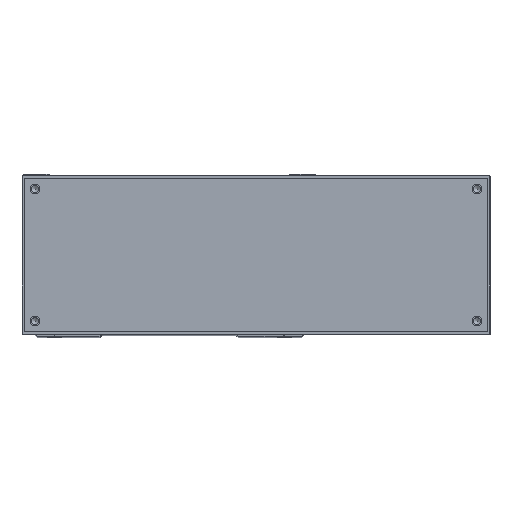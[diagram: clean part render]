
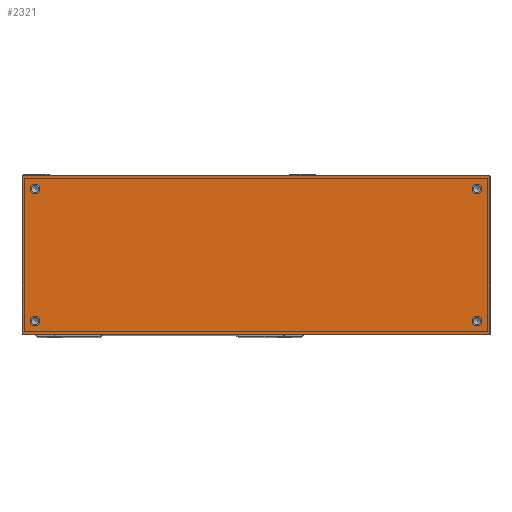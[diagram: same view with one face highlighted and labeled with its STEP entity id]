
A CAD part, top view. The second image highlights one B-rep face of the part: STEP entity #2321.
In plain terms, the highlighted planar face has unit normal (0, 0, 1).
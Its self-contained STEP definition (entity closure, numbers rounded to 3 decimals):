
#281=CIRCLE('',#14822,2.25);
#282=CIRCLE('',#14823,2.25);
#283=CIRCLE('',#14824,2.25);
#284=CIRCLE('',#14825,2.25);
#1418=FACE_BOUND('',#4123,.T.);
#1419=FACE_BOUND('',#4124,.T.);
#1420=FACE_BOUND('',#4125,.T.);
#1421=FACE_BOUND('',#4126,.T.);
#1422=FACE_BOUND('',#4127,.T.);
#2321=ADVANCED_FACE('8',(#1418,#1419,#1420,#1421,#1422),#3133,.F.);
#3133=PLANE('',#14826);
#4123=EDGE_LOOP('',(#5596));
#4124=EDGE_LOOP('',(#5597));
#4125=EDGE_LOOP('',(#5598));
#4126=EDGE_LOOP('',(#5599));
#4127=EDGE_LOOP('',(#5600,#5601,#5602,#5603));
#5596=ORIENTED_EDGE('',*,*,#10853,.F.);
#5597=ORIENTED_EDGE('',*,*,#10854,.F.);
#5598=ORIENTED_EDGE('',*,*,#10855,.F.);
#5599=ORIENTED_EDGE('',*,*,#10856,.F.);
#5600=ORIENTED_EDGE('',*,*,#10857,.F.);
#5601=ORIENTED_EDGE('',*,*,#10858,.F.);
#5602=ORIENTED_EDGE('',*,*,#10859,.F.);
#5603=ORIENTED_EDGE('',*,*,#10860,.F.);
#9382=VERTEX_POINT('',#21536);
#9383=VERTEX_POINT('',#21538);
#9384=VERTEX_POINT('',#21540);
#9385=VERTEX_POINT('',#21542);
#9386=VERTEX_POINT('',#21544);
#9387=VERTEX_POINT('',#21545);
#9388=VERTEX_POINT('',#21547);
#9389=VERTEX_POINT('',#21549);
#10853=EDGE_CURVE('',#9382,#9382,#281,.T.);
#10854=EDGE_CURVE('',#9383,#9383,#282,.T.);
#10855=EDGE_CURVE('',#9384,#9384,#283,.T.);
#10856=EDGE_CURVE('',#9385,#9385,#284,.T.);
#10857=EDGE_CURVE('',#9386,#9387,#12743,.T.);
#10858=EDGE_CURVE('',#9388,#9386,#12744,.T.);
#10859=EDGE_CURVE('',#9389,#9388,#12745,.T.);
#10860=EDGE_CURVE('',#9387,#9389,#12746,.T.);
#12743=LINE('',#21543,#13776);
#12744=LINE('',#21546,#13777);
#12745=LINE('',#21548,#13778);
#12746=LINE('',#21550,#13779);
#13776=VECTOR('',#16730,1.);
#13777=VECTOR('',#16731,1.);
#13778=VECTOR('',#16732,1.);
#13779=VECTOR('',#16733,1.);
#14822=AXIS2_PLACEMENT_3D('',#21535,#16722,#16723);
#14823=AXIS2_PLACEMENT_3D('',#21537,#16724,#16725);
#14824=AXIS2_PLACEMENT_3D('',#21539,#16726,#16727);
#14825=AXIS2_PLACEMENT_3D('',#21541,#16728,#16729);
#14826=AXIS2_PLACEMENT_3D('',#21551,#16734,#16735);
#16722=DIRECTION('',(0.,0.,1.));
#16723=DIRECTION('',(-1.,0.,0.));
#16724=DIRECTION('',(0.,0.,1.));
#16725=DIRECTION('',(1.,0.,0.));
#16726=DIRECTION('',(0.,0.,1.));
#16727=DIRECTION('',(-1.,0.,0.));
#16728=DIRECTION('',(0.,0.,1.));
#16729=DIRECTION('',(1.,0.,0.));
#16730=DIRECTION('',(0.,-1.,0.));
#16731=DIRECTION('',(1.,0.,0.));
#16732=DIRECTION('',(0.,1.,0.));
#16733=DIRECTION('',(-1.,0.,0.));
#16734=DIRECTION('',(0.,0.,-1.));
#16735=DIRECTION('',(1.,0.,0.));
#21535=CARTESIAN_POINT('',(-62.,6.,193.));
#21536=CARTESIAN_POINT('',(-64.25,6.,193.));
#21537=CARTESIAN_POINT('',(142.,6.,193.));
#21538=CARTESIAN_POINT('',(144.25,6.,193.));
#21539=CARTESIAN_POINT('',(142.,67.,193.));
#21540=CARTESIAN_POINT('',(139.75,67.,193.));
#21541=CARTESIAN_POINT('',(-62.,67.,193.));
#21542=CARTESIAN_POINT('',(-59.75,67.,193.));
#21543=CARTESIAN_POINT('',(148.,73.,193.));
#21544=CARTESIAN_POINT('',(148.,73.,193.));
#21545=CARTESIAN_POINT('',(148.,0.,193.));
#21546=CARTESIAN_POINT('',(148.,73.,193.));
#21547=CARTESIAN_POINT('',(-68.,73.,193.));
#21548=CARTESIAN_POINT('',(-68.,73.,193.));
#21549=CARTESIAN_POINT('',(-68.,0.,193.));
#21550=CARTESIAN_POINT('',(148.,0.,193.));
#21551=CARTESIAN_POINT('',(40.,36.5,193.));
